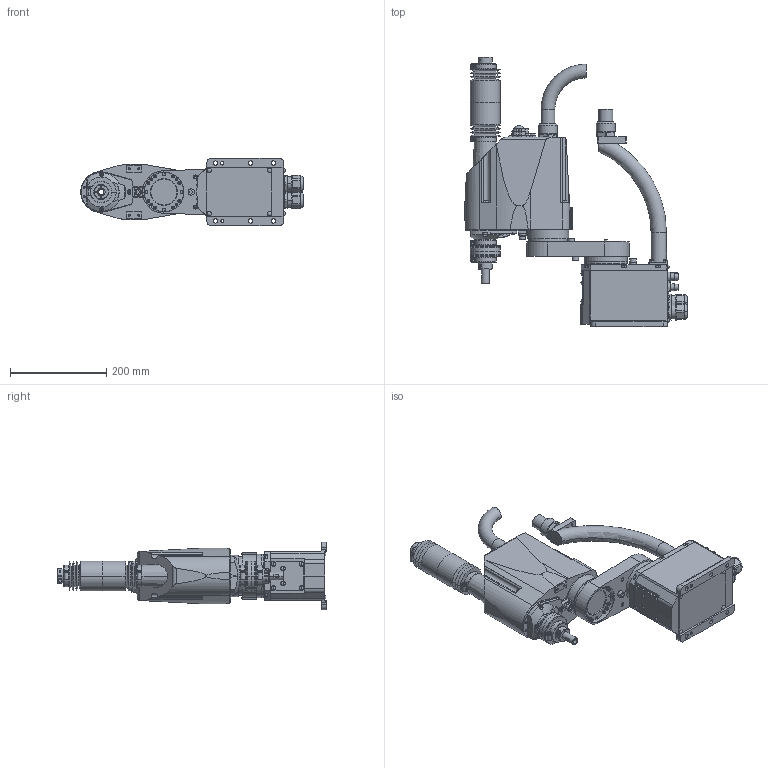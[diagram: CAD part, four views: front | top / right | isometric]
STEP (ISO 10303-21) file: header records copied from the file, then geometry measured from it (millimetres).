
FILE_DESCRIPTION( ( '' ), '1' );
FILE_NAME( '//expscmdclustefs.cadenas.external/client_exchange/iodir/jobs/output/wkb51505765_no0/STEP/G3_251C_2_03.stp', '2012-11-22T13:30:51', ( '' ), ( '' ), ' ', ' ', ' ' );
FILE_SCHEMA( ( 'CONFIG_CONTROL_DESIGN' ) );
Length unit declared in the file: millimetre
Products named in the file (8): 1; 2; 3; 4; 5; 6; 7; 8
Bounding box: 461.5 x 559.5 x 140 mm (x, y, z)
Volume: 7832814.4 mm3; surface area: 623974.1 mm2
Topology: 8 solids, 8 shells, 1969 faces, 4731 edges, 3011 vertices
Faces by surface type: plane 930, cylinder 669, cone 243, torus 90, sphere 37
Entity records: 59972 total; most frequent: CARTESIAN_POINT 12483, DIRECTION 10357, ORIENTED_EDGE 9386, EDGE_CURVE 4693, AXIS2_PLACEMENT_3D 3873, VERTEX_POINT 3011, LINE 2611, VECTOR 2611
